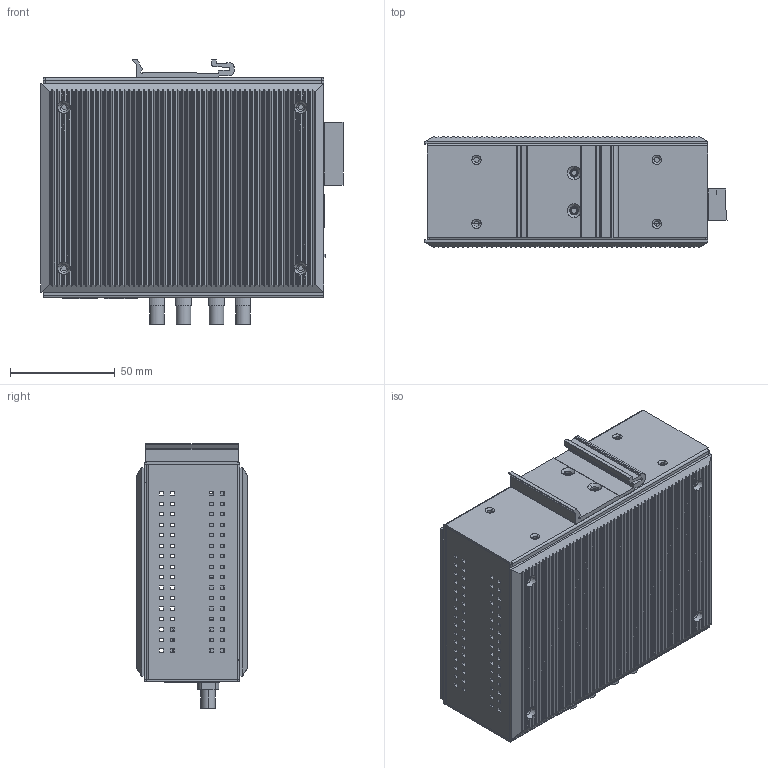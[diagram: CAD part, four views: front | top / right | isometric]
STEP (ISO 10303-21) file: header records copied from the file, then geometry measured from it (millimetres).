
FILE_DESCRIPTION((''),'2;1');
FILE_NAME('EDS-405A_ASM','2018-08-03T',('YoungMH_Yang'),('PTC'),'PRO/ENGINEER BY PARAMETRIC TECHNOLOGY CORPORATION, 2017170','PRO/ENGINEER BY PARAMETRIC TECHNOLOGY CORPORATION, 2017170','');
FILE_SCHEMA(('AUTOMOTIVE_DESIGN { 1 0 10303 214 1 1 1 1 }'));
Products named in the file (28): M3-SO-L3; EDS-508_LEFT-ALMINUM; EDS-508_RIGHT-ALMINUM; DIN_RAIL-KIT; TERMINAL_6PIN; TERMINAL_6PIN_ASM; EDS-405A-MAIN-PCB; RM3-109ATDVF-; DIP_SEITCH_8PIN; 1111000003000_TERMINAL_M_6P; PCB-TERMINAL_PCB-2; 3012168101-; 1_____3_05; 3012168101_ASM; TAFG1-12WQR_ASM_2_ASM; TAFG1-12WQR_RESET_ASM_2_ASM; TAFG1-12WQR_RESET_ASM_ASM; TACKSW_DTSA644N; RB1-1X7B-10PIN-; 1106999994500_LED_1X2; 1106999994000_LED_GREEN_SMD; FIBER_ST-CUT; EDS-405A-MAIN-PCB_ASSY_ASM; EDS-405A_BOT-COVER; EDS-405A_BOT-COVER_ASSY_ASM; EDS-405A_TOP_2FIBER; EDS-405A_TOP_COVER_ASSY_ASM; EDS-405A_ASM
Assembly tree (34 placements, depth 5):
  EDS-405A_ASM
    M3-SO-L3  x4
    EDS-508_LEFT-ALMINUM
    EDS-508_RIGHT-ALMINUM
    DIN_RAIL-KIT
    TERMINAL_6PIN_ASM
      TERMINAL_6PIN
    EDS-405A-MAIN-PCB_ASSY_ASM
      EDS-405A-MAIN-PCB
      RM3-109ATDVF-
      DIP_SEITCH_8PIN
      1111000003000_TERMINAL_M_6P
      PCB-TERMINAL_PCB-2
      3012168101_ASM
        3012168101-
        1_____3_05
      TAFG1-12WQR_RESET_ASM_ASM
        TAFG1-12WQR_RESET_ASM_2_ASM
          TAFG1-12WQR_ASM_2_ASM
      TACKSW_DTSA644N
      RB1-1X7B-10PIN-
      1106999994500_LED_1X2  x3
      1106999994000_LED_GREEN_SMD  x2
      FIBER_ST-CUT  x2
    EDS-405A_BOT-COVER_ASSY_ASM
      EDS-405A_BOT-COVER
    EDS-405A_TOP_COVER_ASSY_ASM
      EDS-405A_TOP_2FIBER
Bounding box: 144.19 x 52.98 x 126.5 mm (x, y, z)
Volume: 182368.2 mm3; surface area: 234224.9 mm2
Topology: 67 solids, 91 shells, 8164 faces, 22348 edges, 14334 vertices
Faces by surface type: plane 5788, cylinder 1929, bspline 201, torus 140, cone 72, sphere 32, revolution 2
Entity records: 296956 total; most frequent: CARTESIAN_POINT 54493, ORIENTED_EDGE 43511, DIRECTION 39776, EDGE_CURVE 21820, VECTOR 17236, LINE 17236, VERTEX_POINT 14024, AXIS2_PLACEMENT_3D 11269
